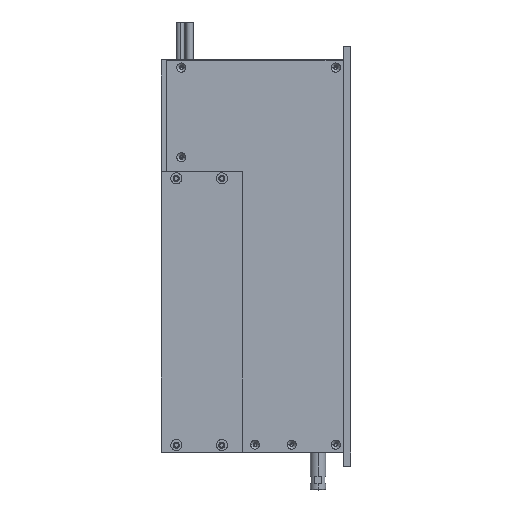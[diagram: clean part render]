
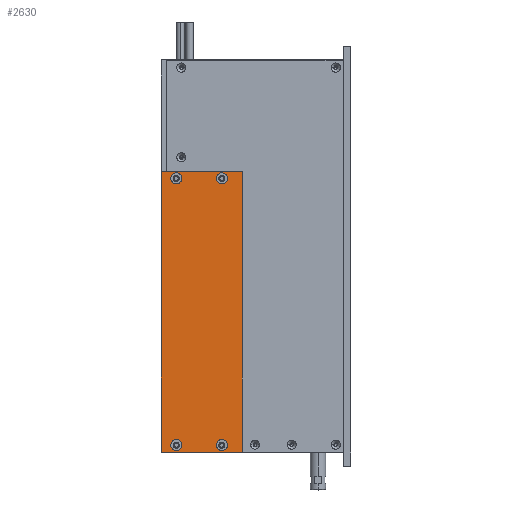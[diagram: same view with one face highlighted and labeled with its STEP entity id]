
A CAD part, top view. The second image highlights one B-rep face of the part: STEP entity #2630.
In plain terms, the highlighted planar face has unit normal (0, 0, 1) as drawn and (0, 0, -1) by its records, which use the part's own axes.
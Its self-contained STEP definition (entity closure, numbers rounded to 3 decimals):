
#169 = EDGE_CURVE ( 'NONE', #1616, #7964, #9915, .T. ) ;
#183 = CARTESIAN_POINT ( 'NONE',  ( -28.3, 2.8, 0. ) ) ;
#423 = DIRECTION ( 'NONE',  ( 0., 0., -1. ) ) ;
#696 = CIRCLE ( 'NONE', #16507, 2.2 ) ;
#797 = CARTESIAN_POINT ( 'NONE',  ( 0., 0., 0. ) ) ;
#845 = AXIS2_PLACEMENT_3D ( 'NONE', #10368, #11716, #10003 ) ;
#1157 = VECTOR ( 'NONE', #14382, 1000. ) ;
#1530 = LINE ( 'NONE', #14352, #10853 ) ;
#1593 = EDGE_CURVE ( 'NONE', #18117, #6133, #12847, .T. ) ;
#1616 = VERTEX_POINT ( 'NONE', #11260 ) ;
#1721 = AXIS2_PLACEMENT_3D ( 'NONE', #7413, #423, #22877 ) ;
#1851 = AXIS2_PLACEMENT_3D ( 'NONE', #11438, #5857, #7782 ) ;
#2021 = EDGE_CURVE ( 'NONE', #15028, #16731, #6229, .T. ) ;
#2513 = EDGE_CURVE ( 'NONE', #11584, #9609, #9863, .T. ) ;
#2551 = EDGE_LOOP ( 'NONE', ( #6972, #3887, #10830, #6642 ) ) ;
#2630 = ADVANCED_FACE ( 'NONE', ( #10213, #7645, #9884, #10481, #10191 ), #8530, .T. ) ;
#2736 = AXIS2_PLACEMENT_3D ( 'NONE', #8858, #19424, #17649 ) ;
#2785 = VERTEX_POINT ( 'NONE', #14472 ) ;
#3198 = DIRECTION ( 'NONE',  ( -1., 0., 0. ) ) ;
#3692 = CARTESIAN_POINT ( 'NONE',  ( -5.9, 108.2, 0. ) ) ;
#3847 = EDGE_LOOP ( 'NONE', ( #3976, #12309 ) ) ;
#3887 = ORIENTED_EDGE ( 'NONE', *, *, #20424, .T. ) ;
#3976 = ORIENTED_EDGE ( 'NONE', *, *, #10978, .F. ) ;
#4438 = DIRECTION ( 'NONE',  ( -1., 0., 0. ) ) ;
#4664 = ORIENTED_EDGE ( 'NONE', *, *, #2513, .F. ) ;
#5043 = AXIS2_PLACEMENT_3D ( 'NONE', #9858, #22027, #4438 ) ;
#5087 = DIRECTION ( 'NONE',  ( 0., 1., 0. ) ) ;
#5272 = VERTEX_POINT ( 'NONE', #21860 ) ;
#5304 = CARTESIAN_POINT ( 'NONE',  ( -26.1, 2.8, 0. ) ) ;
#5553 = CIRCLE ( 'NONE', #11830, 2.2 ) ;
#5857 = DIRECTION ( 'NONE',  ( 0., 0., -1. ) ) ;
#6095 = CARTESIAN_POINT ( 'NONE',  ( -5.9, 2.8, 0. ) ) ;
#6133 = VERTEX_POINT ( 'NONE', #9735 ) ;
#6229 = CIRCLE ( 'NONE', #1721, 2.2 ) ;
#6370 = EDGE_CURVE ( 'NONE', #5272, #20333, #5553, .T. ) ;
#6630 = CARTESIAN_POINT ( 'NONE',  ( -23.9, 108.2, 0. ) ) ;
#6642 = ORIENTED_EDGE ( 'NONE', *, *, #16483, .T. ) ;
#6972 = ORIENTED_EDGE ( 'NONE', *, *, #169, .T. ) ;
#7116 = CIRCLE ( 'NONE', #1851, 2.2 ) ;
#7413 = CARTESIAN_POINT ( 'NONE',  ( -8.1, 2.8, 0. ) ) ;
#7645 = FACE_BOUND ( 'NONE', #3847, .T. ) ;
#7782 = DIRECTION ( 'NONE',  ( -1., 0., 0. ) ) ;
#7964 = VERTEX_POINT ( 'NONE', #16672 ) ;
#8439 = DIRECTION ( 'NONE',  ( 0., 0., -1. ) ) ;
#8530 = PLANE ( 'NONE',  #19214 ) ;
#8858 = CARTESIAN_POINT ( 'NONE',  ( -26.1, 108.2, 0. ) ) ;
#8877 = DIRECTION ( 'NONE',  ( 0., 0., -1. ) ) ;
#8945 = EDGE_CURVE ( 'NONE', #16731, #15028, #19415, .T. ) ;
#9155 = EDGE_CURVE ( 'NONE', #14465, #2785, #7116, .T. ) ;
#9164 = ORIENTED_EDGE ( 'NONE', *, *, #15465, .F. ) ;
#9609 = VERTEX_POINT ( 'NONE', #12264 ) ;
#9735 = CARTESIAN_POINT ( 'NONE',  ( 0., 0., 0. ) ) ;
#9858 = CARTESIAN_POINT ( 'NONE',  ( -8.1, 2.8, 0. ) ) ;
#9863 = CIRCLE ( 'NONE', #2736, 2.2 ) ;
#9884 = FACE_BOUND ( 'NONE', #21359, .T. ) ;
#9915 = LINE ( 'NONE', #15625, #18171 ) ;
#9954 = CARTESIAN_POINT ( 'NONE',  ( 0., 111., 0. ) ) ;
#10003 = DIRECTION ( 'NONE',  ( -1., 0., 0. ) ) ;
#10191 = FACE_OUTER_BOUND ( 'NONE', #2551, .T. ) ;
#10213 = FACE_BOUND ( 'NONE', #15204, .T. ) ;
#10275 = CARTESIAN_POINT ( 'NONE',  ( 0., 0., 0. ) ) ;
#10368 = CARTESIAN_POINT ( 'NONE',  ( -26.1, 108.2, 0. ) ) ;
#10481 = FACE_BOUND ( 'NONE', #21236, .T. ) ;
#10784 = DIRECTION ( 'NONE',  ( 0., 0., -1. ) ) ;
#10830 = ORIENTED_EDGE ( 'NONE', *, *, #1593, .T. ) ;
#10853 = VECTOR ( 'NONE', #19616, 1000. ) ;
#10978 = EDGE_CURVE ( 'NONE', #20333, #5272, #696, .T. ) ;
#11260 = CARTESIAN_POINT ( 'NONE',  ( -32.1, 0., 0. ) ) ;
#11385 = ORIENTED_EDGE ( 'NONE', *, *, #13104, .F. ) ;
#11438 = CARTESIAN_POINT ( 'NONE',  ( -8.1, 108.2, 0. ) ) ;
#11584 = VERTEX_POINT ( 'NONE', #6630 ) ;
#11652 = DIRECTION ( 'NONE',  ( 0., -1., 0. ) ) ;
#11716 = DIRECTION ( 'NONE',  ( 0., 0., -1. ) ) ;
#11830 = AXIS2_PLACEMENT_3D ( 'NONE', #5304, #10784, #21381 ) ;
#12264 = CARTESIAN_POINT ( 'NONE',  ( -28.3, 108.2, 0. ) ) ;
#12281 = VECTOR ( 'NONE', #11652, 1000. ) ;
#12309 = ORIENTED_EDGE ( 'NONE', *, *, #6370, .F. ) ;
#12598 = CARTESIAN_POINT ( 'NONE',  ( -32.1, 111., 0. ) ) ;
#12847 = LINE ( 'NONE', #797, #12281 ) ;
#13041 = CIRCLE ( 'NONE', #845, 2.2 ) ;
#13104 = EDGE_CURVE ( 'NONE', #9609, #11584, #13041, .T. ) ;
#14352 = CARTESIAN_POINT ( 'NONE',  ( -32.1, 0., 0. ) ) ;
#14382 = DIRECTION ( 'NONE',  ( 1., 0., 0. ) ) ;
#14465 = VERTEX_POINT ( 'NONE', #3692 ) ;
#14472 = CARTESIAN_POINT ( 'NONE',  ( -10.3, 108.2, 0. ) ) ;
#15028 = VERTEX_POINT ( 'NONE', #17143 ) ;
#15204 = EDGE_LOOP ( 'NONE', ( #22554, #16912 ) ) ;
#15465 = EDGE_CURVE ( 'NONE', #2785, #14465, #18506, .T. ) ;
#15495 = DIRECTION ( 'NONE',  ( 0., 0., -1. ) ) ;
#15625 = CARTESIAN_POINT ( 'NONE',  ( -32.1, 0., 0. ) ) ;
#15977 = LINE ( 'NONE', #12598, #1157 ) ;
#16483 = EDGE_CURVE ( 'NONE', #6133, #1616, #1530, .T. ) ;
#16507 = AXIS2_PLACEMENT_3D ( 'NONE', #19439, #8877, #21251 ) ;
#16581 = ORIENTED_EDGE ( 'NONE', *, *, #9155, .F. ) ;
#16672 = CARTESIAN_POINT ( 'NONE',  ( -32.1, 111., 0. ) ) ;
#16731 = VERTEX_POINT ( 'NONE', #6095 ) ;
#16912 = ORIENTED_EDGE ( 'NONE', *, *, #8945, .F. ) ;
#17143 = CARTESIAN_POINT ( 'NONE',  ( -10.3, 2.8, 0. ) ) ;
#17649 = DIRECTION ( 'NONE',  ( -1., 0., 0. ) ) ;
#18117 = VERTEX_POINT ( 'NONE', #9954 ) ;
#18171 = VECTOR ( 'NONE', #5087, 1000. ) ;
#18506 = CIRCLE ( 'NONE', #22909, 2.2 ) ;
#19029 = DIRECTION ( 'NONE',  ( -1., 0., 0. ) ) ;
#19214 = AXIS2_PLACEMENT_3D ( 'NONE', #10275, #15495, #3198 ) ;
#19415 = CIRCLE ( 'NONE', #5043, 2.2 ) ;
#19424 = DIRECTION ( 'NONE',  ( 0., 0., -1. ) ) ;
#19439 = CARTESIAN_POINT ( 'NONE',  ( -26.1, 2.8, 0. ) ) ;
#19616 = DIRECTION ( 'NONE',  ( -1., 0., 0. ) ) ;
#20333 = VERTEX_POINT ( 'NONE', #183 ) ;
#20424 = EDGE_CURVE ( 'NONE', #7964, #18117, #15977, .T. ) ;
#20813 = CARTESIAN_POINT ( 'NONE',  ( -8.1, 108.2, 0. ) ) ;
#21236 = EDGE_LOOP ( 'NONE', ( #11385, #4664 ) ) ;
#21251 = DIRECTION ( 'NONE',  ( -1., 0., 0. ) ) ;
#21359 = EDGE_LOOP ( 'NONE', ( #9164, #16581 ) ) ;
#21381 = DIRECTION ( 'NONE',  ( -1., 0., 0. ) ) ;
#21860 = CARTESIAN_POINT ( 'NONE',  ( -23.9, 2.8, 0. ) ) ;
#22027 = DIRECTION ( 'NONE',  ( 0., 0., -1. ) ) ;
#22554 = ORIENTED_EDGE ( 'NONE', *, *, #2021, .F. ) ;
#22877 = DIRECTION ( 'NONE',  ( -1., 0., 0. ) ) ;
#22909 = AXIS2_PLACEMENT_3D ( 'NONE', #20813, #8439, #19029 ) ;
